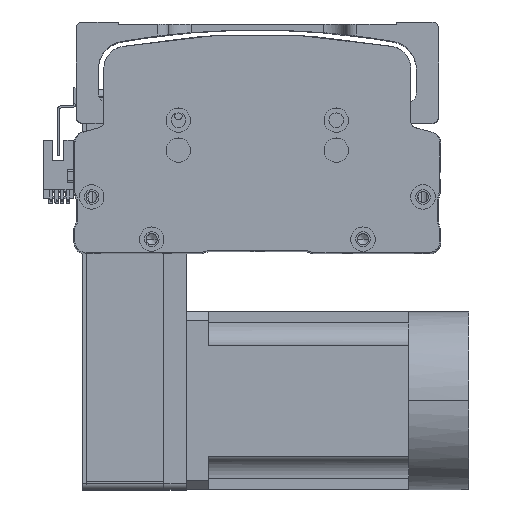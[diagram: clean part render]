
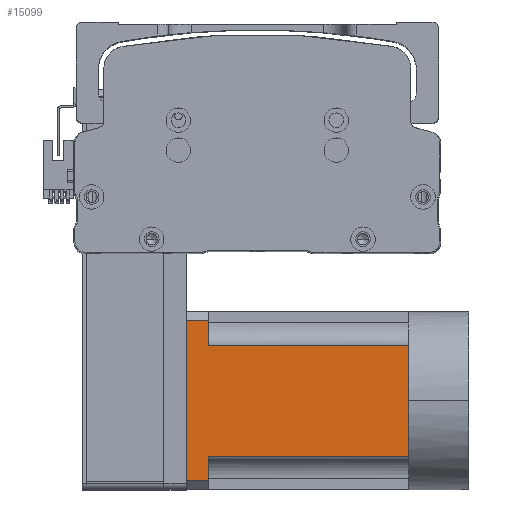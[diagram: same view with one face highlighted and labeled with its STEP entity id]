
A CAD part, top view. The second image highlights one B-rep face of the part: STEP entity #15099.
In plain terms, the highlighted planar face has unit normal (0, 0, 1) as drawn and (0, 0, -1) by its records, which use the part's own axes.
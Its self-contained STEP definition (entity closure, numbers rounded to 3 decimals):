
#1053 = CARTESIAN_POINT ( 'NONE',  ( 25., -27., -40. ) ) ;
#2897 = EDGE_CURVE ( 'NONE', #18271, #21123, #42540, .T. ) ;
#4103 = ORIENTED_EDGE ( 'NONE', *, *, #23106, .T. ) ;
#4459 = CARTESIAN_POINT ( 'NONE',  ( 25., 90., -40. ) ) ;
#7429 = ORIENTED_EDGE ( 'NONE', *, *, #27697, .F. ) ;
#9555 = VECTOR ( 'NONE', #24065, 1000. ) ;
#10274 = CARTESIAN_POINT ( 'NONE',  ( 36., -27., -40. ) ) ;
#10557 = VECTOR ( 'NONE', #43717, 1000. ) ;
#11161 = CARTESIAN_POINT ( 'NONE',  ( -36., 100., -40. ) ) ;
#11581 = ORIENTED_EDGE ( 'NONE', *, *, #43362, .T. ) ;
#11855 = DIRECTION ( 'NONE',  ( -1., 0., 0. ) ) ;
#11864 = ORIENTED_EDGE ( 'NONE', *, *, #15452, .T. ) ;
#11907 = CARTESIAN_POINT ( 'NONE',  ( -25., 90., -40. ) ) ;
#12142 = EDGE_CURVE ( 'NONE', #29860, #32762, #41352, .T. ) ;
#13250 = VERTEX_POINT ( 'NONE', #44470 ) ;
#13831 = LINE ( 'NONE', #54358, #26053 ) ;
#14197 = FACE_OUTER_BOUND ( 'NONE', #21411, .T. ) ;
#15099 = ADVANCED_FACE ( 'NONE', ( #14197 ), #45767, .T. ) ;
#15452 = EDGE_CURVE ( 'NONE', #52929, #29860, #47323, .T. ) ;
#17139 = LINE ( 'NONE', #1053, #41723 ) ;
#18144 = DIRECTION ( 'NONE',  ( 0., 0., -1. ) ) ;
#18271 = VERTEX_POINT ( 'NONE', #48045 ) ;
#18749 = CARTESIAN_POINT ( 'NONE',  ( -40., 100., -40. ) ) ;
#19508 = DIRECTION ( 'NONE',  ( 0., -1., 0. ) ) ;
#19622 = CARTESIAN_POINT ( 'NONE',  ( 0., 0., -40. ) ) ;
#20330 = LINE ( 'NONE', #18749, #21776 ) ;
#20549 = CARTESIAN_POINT ( 'NONE',  ( -25., 0., -40. ) ) ;
#21010 = LINE ( 'NONE', #10274, #44146 ) ;
#21123 = VERTEX_POINT ( 'NONE', #4459 ) ;
#21411 = EDGE_LOOP ( 'NONE', ( #7429, #32386, #58943, #4103, #11581, #40090, #11864, #52283, #43839 ) ) ;
#21776 = VECTOR ( 'NONE', #46369, 1000. ) ;
#22055 = CARTESIAN_POINT ( 'NONE',  ( -40., 90., -40. ) ) ;
#23106 = EDGE_CURVE ( 'NONE', #21123, #13250, #17139, .T. ) ;
#24065 = DIRECTION ( 'NONE',  ( 0., 1., 0. ) ) ;
#25711 = VERTEX_POINT ( 'NONE', #37101 ) ;
#26053 = VECTOR ( 'NONE', #59003, 1000. ) ;
#26498 = DIRECTION ( 'NONE',  ( -1., 0., 0. ) ) ;
#27308 = VERTEX_POINT ( 'NONE', #11161 ) ;
#27697 = EDGE_CURVE ( 'NONE', #25711, #27308, #20330, .T. ) ;
#28635 = DIRECTION ( 'NONE',  ( 0., -1., 0. ) ) ;
#29860 = VERTEX_POINT ( 'NONE', #11907 ) ;
#32386 = ORIENTED_EDGE ( 'NONE', *, *, #41773, .T. ) ;
#32762 = VERTEX_POINT ( 'NONE', #37918 ) ;
#33116 = VECTOR ( 'NONE', #11855, 1000. ) ;
#34026 = LINE ( 'NONE', #51668, #9555 ) ;
#34613 = CARTESIAN_POINT ( 'NONE',  ( -25., -27., -40. ) ) ;
#35436 = EDGE_CURVE ( 'NONE', #32762, #27308, #34026, .T. ) ;
#37101 = CARTESIAN_POINT ( 'NONE',  ( 36., 100., -40. ) ) ;
#37918 = CARTESIAN_POINT ( 'NONE',  ( -36., 90., -40. ) ) ;
#39473 = CARTESIAN_POINT ( 'NONE',  ( -40., 0., -40. ) ) ;
#40090 = ORIENTED_EDGE ( 'NONE', *, *, #41968, .T. ) ;
#41352 = LINE ( 'NONE', #52308, #52112 ) ;
#41723 = VECTOR ( 'NONE', #28635, 1000. ) ;
#41773 = EDGE_CURVE ( 'NONE', #25711, #18271, #21010, .T. ) ;
#41968 = EDGE_CURVE ( 'NONE', #47990, #52929, #13831, .T. ) ;
#42540 = LINE ( 'NONE', #22055, #54762 ) ;
#43362 = EDGE_CURVE ( 'NONE', #13250, #47990, #57630, .T. ) ;
#43717 = DIRECTION ( 'NONE',  ( 0., 1., 0. ) ) ;
#43839 = ORIENTED_EDGE ( 'NONE', *, *, #35436, .T. ) ;
#44146 = VECTOR ( 'NONE', #19508, 1000. ) ;
#44470 = CARTESIAN_POINT ( 'NONE',  ( 25., 0., -40. ) ) ;
#45767 = PLANE ( 'NONE',  #47878 ) ;
#46369 = DIRECTION ( 'NONE',  ( -1., 0., 0. ) ) ;
#47323 = LINE ( 'NONE', #34613, #10557 ) ;
#47878 = AXIS2_PLACEMENT_3D ( 'NONE', #50189, #18144, #50385 ) ;
#47990 = VERTEX_POINT ( 'NONE', #19622 ) ;
#48045 = CARTESIAN_POINT ( 'NONE',  ( 36., 90., -40. ) ) ;
#50189 = CARTESIAN_POINT ( 'NONE',  ( -40., -27., -40. ) ) ;
#50385 = DIRECTION ( 'NONE',  ( -1., 0., 0. ) ) ;
#51668 = CARTESIAN_POINT ( 'NONE',  ( -36., -27., -40. ) ) ;
#52112 = VECTOR ( 'NONE', #56738, 1000. ) ;
#52283 = ORIENTED_EDGE ( 'NONE', *, *, #12142, .T. ) ;
#52308 = CARTESIAN_POINT ( 'NONE',  ( -40., 90., -40. ) ) ;
#52929 = VERTEX_POINT ( 'NONE', #20549 ) ;
#54358 = CARTESIAN_POINT ( 'NONE',  ( -40., 0., -40. ) ) ;
#54762 = VECTOR ( 'NONE', #26498, 1000. ) ;
#56738 = DIRECTION ( 'NONE',  ( -1., 0., 0. ) ) ;
#57630 = LINE ( 'NONE', #39473, #33116 ) ;
#58943 = ORIENTED_EDGE ( 'NONE', *, *, #2897, .T. ) ;
#59003 = DIRECTION ( 'NONE',  ( -1., 0., 0. ) ) ;
